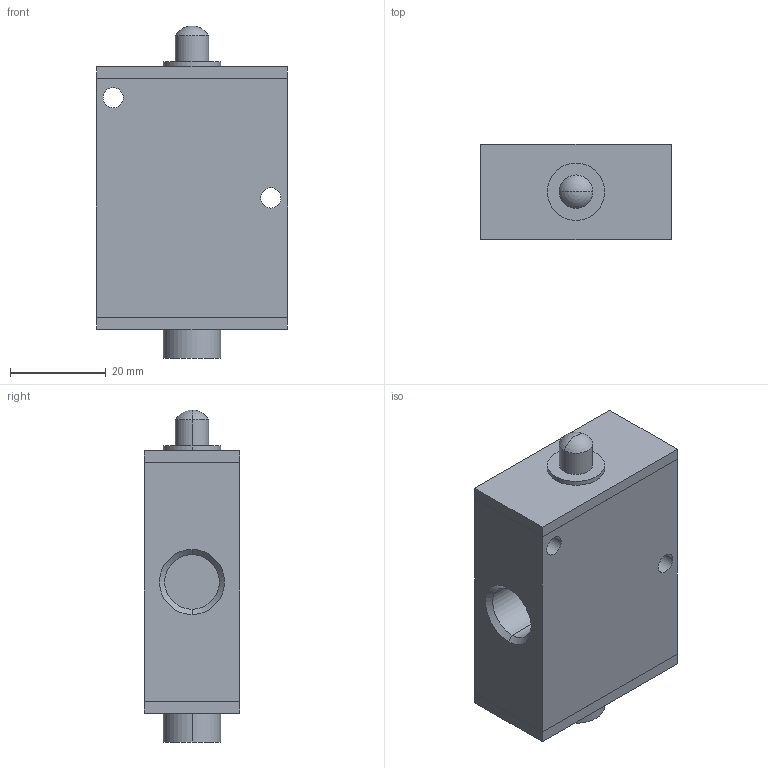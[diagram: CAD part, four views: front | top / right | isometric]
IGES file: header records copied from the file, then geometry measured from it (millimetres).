
Global section: file name: No Iges File Name specified; native system: AutoDesk Inventor R11.0; preprocessor: AutoDesk Inventor Iges Exporter R11.0; author: No Author specified; organization: No Organization specified; date: 20061219.113251; units: millimetre
Bounding box: 40 x 20 x 69.5 mm (x, y, z)
Volume: 41164.8 mm3; surface area: 10142.6 mm2
Topology: 1 solids, 1 shells, 45 faces, 100 edges, 63 vertices
Faces by surface type: plane 18, bspline 15, cylinder 6, revolution 4, sphere 2
